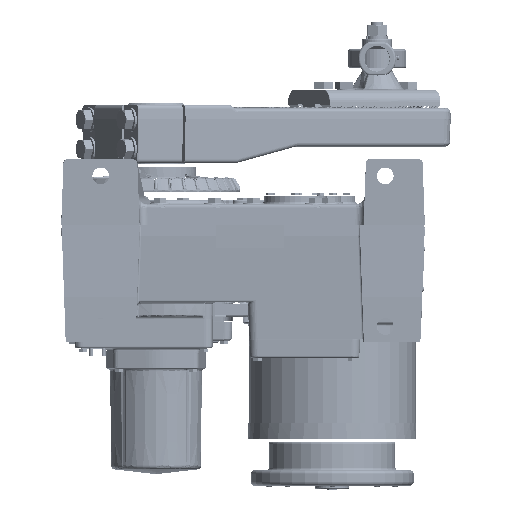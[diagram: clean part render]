
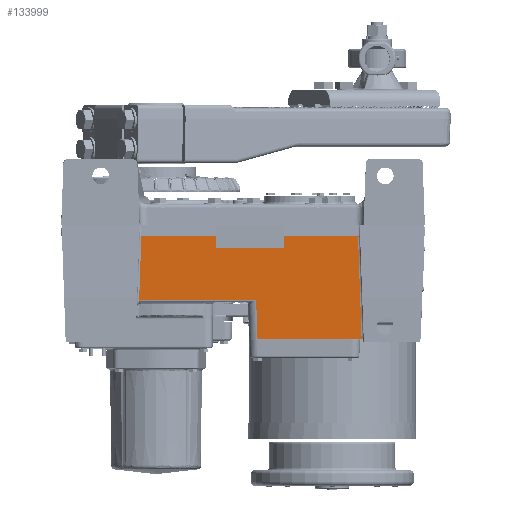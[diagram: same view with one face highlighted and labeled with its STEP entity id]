
A CAD part, front view. The second image highlights one B-rep face of the part: STEP entity #133999.
In plain terms, the highlighted planar face has unit normal (0, -0.999, -0.034).
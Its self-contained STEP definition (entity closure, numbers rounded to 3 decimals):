
#594 = CARTESIAN_POINT ( 'NONE',  ( 6.067, -8.844, -6.826 ) ) ;
#1895 = VECTOR ( 'NONE', #97709, 39.37 ) ;
#2305 = EDGE_CURVE ( 'NONE', #180601, #5463, #27903, .T. ) ;
#4342 = DIRECTION ( 'NONE',  ( 0.035, 0.034, -0.999 ) ) ;
#5463 = VERTEX_POINT ( 'NONE', #89399 ) ;
#10160 = CARTESIAN_POINT ( 'NONE',  ( 12.05, -9.073, -0.001 ) ) ;
#12129 = ORIENTED_EDGE ( 'NONE', *, *, #155512, .F. ) ;
#14060 = CARTESIAN_POINT ( 'NONE',  ( -0.897, -8.921, -4.516 ) ) ;
#16849 = DIRECTION ( 'NONE',  ( 0., -0.034, 0.999 ) ) ;
#25115 = DIRECTION ( 'NONE',  ( 0., 0.034, -0.999 ) ) ;
#27127 = VERTEX_POINT ( 'NONE', #90209 ) ;
#27903 = LINE ( 'NONE', #168218, #176190 ) ;
#28408 = VECTOR ( 'NONE', #25115, 39.37 ) ;
#31625 = LINE ( 'NONE', #10160, #57077 ) ;
#34026 = LINE ( 'NONE', #122718, #142883 ) ;
#35630 = EDGE_CURVE ( 'NONE', #188789, #190414, #34026, .T. ) ;
#40018 = DIRECTION ( 'NONE',  ( 1., 0., 0. ) ) ;
#40982 = VECTOR ( 'NONE', #150929, 39.37 ) ;
#42816 = CARTESIAN_POINT ( 'NONE',  ( -0.973, -8.921, -4.522 ) ) ;
#43009 = VECTOR ( 'NONE', #68603, 39.37 ) ;
#45945 = CARTESIAN_POINT ( 'NONE',  ( -0.875, -9.05, -0.687 ) ) ;
#46149 = VERTEX_POINT ( 'NONE', #166339 ) ;
#47366 = CARTESIAN_POINT ( 'NONE',  ( 7.63, -9.05, -0.687 ) ) ;
#49833 = CARTESIAN_POINT ( 'NONE',  ( 12.199, -9.05, -0.687 ) ) ;
#50522 = VECTOR ( 'NONE', #40018, 39.37 ) ;
#57077 = VECTOR ( 'NONE', #172633, 39.37 ) ;
#57507 = ORIENTED_EDGE ( 'NONE', *, *, #155620, .T. ) ;
#57704 = CARTESIAN_POINT ( 'NONE',  ( -0.897, -8.921, -4.516 ) ) ;
#63088 = LINE ( 'NONE', #67426, #102474 ) ;
#64723 = DIRECTION ( 'NONE',  ( 1., 0., 0. ) ) ;
#67426 = CARTESIAN_POINT ( 'NONE',  ( -7.626, -9.026, -1.401 ) ) ;
#68603 = DIRECTION ( 'NONE',  ( 1., 0., 0. ) ) ;
#69351 = EDGE_CURVE ( 'NONE', #173581, #89358, #107187, .T. ) ;
#74387 = ORIENTED_EDGE ( 'NONE', *, *, #2305, .T. ) ;
#80584 = LINE ( 'NONE', #111982, #1895 ) ;
#82353 = DIRECTION ( 'NONE',  ( 1., 0., 0. ) ) ;
#82764 = VERTEX_POINT ( 'NONE', #14060 ) ;
#86823 = CARTESIAN_POINT ( 'NONE',  ( -1.009, -8.921, -4.534 ) ) ;
#88763 = VERTEX_POINT ( 'NONE', #135658 ) ;
#89358 = VERTEX_POINT ( 'NONE', #97058 ) ;
#89399 = CARTESIAN_POINT ( 'NONE',  ( -1.009, -8.921, -4.534 ) ) ;
#90209 = CARTESIAN_POINT ( 'NONE',  ( 12.288, -8.844, -6.826 ) ) ;
#90563 = CARTESIAN_POINT ( 'NONE',  ( -7.626, -9.05, -0.687 ) ) ;
#93780 = VERTEX_POINT ( 'NONE', #103353 ) ;
#96389 = EDGE_CURVE ( 'NONE', #82764, #188789, #80584, .T. ) ;
#97058 = CARTESIAN_POINT ( 'NONE',  ( 3.569, -9.026, -1.401 ) ) ;
#97709 = DIRECTION ( 'NONE',  ( 1., 0., 0. ) ) ;
#98031 = EDGE_CURVE ( 'NONE', #180601, #173581, #121783, .T. ) ;
#98853 = CARTESIAN_POINT ( 'NONE',  ( 3.569, -9.05, -0.687 ) ) ;
#102474 = VECTOR ( 'NONE', #82353, 39.37 ) ;
#103353 = CARTESIAN_POINT ( 'NONE',  ( 7.63, -9.026, -1.401 ) ) ;
#105523 = DIRECTION ( 'NONE',  ( 0., 0.999, 0.034 ) ) ;
#105548 = CARTESIAN_POINT ( 'NONE',  ( 3.569, -9.05, -0.687 ) ) ;
#106078 = AXIS2_PLACEMENT_3D ( 'NONE', #90563, #105523, #16849 ) ;
#107187 = LINE ( 'NONE', #98853, #28408 ) ;
#108630 = DIRECTION ( 'NONE',  ( -0.035, 0.034, -0.999 ) ) ;
#111087 = EDGE_LOOP ( 'NONE', ( #162510, #139132, #74387, #57507, #128723, #154707, #189144, #151473, #159566, #115683, #12129 ) ) ;
#111982 = CARTESIAN_POINT ( 'NONE',  ( -7.626, -8.921, -4.516 ) ) ;
#114797 = LINE ( 'NONE', #49833, #188979 ) ;
#115683 = ORIENTED_EDGE ( 'NONE', *, *, #135946, .F. ) ;
#121783 = LINE ( 'NONE', #172258, #43009 ) ;
#122718 = CARTESIAN_POINT ( 'NONE',  ( 6.073, -8.838, -6.995 ) ) ;
#128723 = ORIENTED_EDGE ( 'NONE', *, *, #96389, .T. ) ;
#128735 = CARTESIAN_POINT ( 'NONE',  ( -7.626, -8.844, -6.826 ) ) ;
#129250 = LINE ( 'NONE', #128735, #50522 ) ;
#133999 = ADVANCED_FACE ( 'NONE', ( #180527 ), #176787, .F. ) ;
#135658 = CARTESIAN_POINT ( 'NONE',  ( 7.63, -9.05, -0.687 ) ) ;
#135946 = EDGE_CURVE ( 'NONE', #93780, #88763, #159146, .T. ) ;
#139132 = ORIENTED_EDGE ( 'NONE', *, *, #98031, .F. ) ;
#142883 = VECTOR ( 'NONE', #4342, 39.37 ) ;
#145033 = CARTESIAN_POINT ( 'NONE',  ( 5.987, -8.921, -4.516 ) ) ;
#146423 = CARTESIAN_POINT ( 'NONE',  ( -0.935, -8.921, -4.516 ) ) ;
#150929 = DIRECTION ( 'NONE',  ( 0., -0.034, 0.999 ) ) ;
#151473 = ORIENTED_EDGE ( 'NONE', *, *, #174394, .T. ) ;
#154707 = ORIENTED_EDGE ( 'NONE', *, *, #35630, .T. ) ;
#155512 = EDGE_CURVE ( 'NONE', #89358, #93780, #63088, .T. ) ;
#155620 = EDGE_CURVE ( 'NONE', #5463, #82764, #167337, .T. ) ;
#159146 = LINE ( 'NONE', #47366, #40982 ) ;
#159566 = ORIENTED_EDGE ( 'NONE', *, *, #163043, .F. ) ;
#162510 = ORIENTED_EDGE ( 'NONE', *, *, #69351, .F. ) ;
#163043 = EDGE_CURVE ( 'NONE', #88763, #46149, #114797, .T. ) ;
#166339 = CARTESIAN_POINT ( 'NONE',  ( 12.074, -9.05, -0.687 ) ) ;
#167337 =( BOUNDED_CURVE ( )  B_SPLINE_CURVE ( 3, ( #86823, #42816, #146423, #57704 ),
 .UNSPECIFIED., .F., .F. ) 
 B_SPLINE_CURVE_WITH_KNOTS ( ( 4, 4 ),
 ( 2.836, 3.142 ),
 .UNSPECIFIED. ) 
 CURVE ( )  GEOMETRIC_REPRESENTATION_ITEM ( )  RATIONAL_B_SPLINE_CURVE ( ( 1., 0.992, 0.992, 1. ) ) 
 REPRESENTATION_ITEM ( '' )  );
#168218 = CARTESIAN_POINT ( 'NONE',  ( -0.883, -9.042, -0.922 ) ) ;
#172258 = CARTESIAN_POINT ( 'NONE',  ( 12.199, -9.05, -0.687 ) ) ;
#172633 = DIRECTION ( 'NONE',  ( -0.035, -0.034, 0.999 ) ) ;
#173581 = VERTEX_POINT ( 'NONE', #105548 ) ;
#174394 = EDGE_CURVE ( 'NONE', #27127, #46149, #31625, .T. ) ;
#176190 = VECTOR ( 'NONE', #108630, 39.37 ) ;
#176787 = PLANE ( 'NONE',  #106078 ) ;
#180527 = FACE_OUTER_BOUND ( 'NONE', #111087, .T. ) ;
#180601 = VERTEX_POINT ( 'NONE', #45945 ) ;
#184074 = EDGE_CURVE ( 'NONE', #190414, #27127, #129250, .T. ) ;
#188789 = VERTEX_POINT ( 'NONE', #145033 ) ;
#188979 = VECTOR ( 'NONE', #64723, 39.37 ) ;
#189144 = ORIENTED_EDGE ( 'NONE', *, *, #184074, .T. ) ;
#190414 = VERTEX_POINT ( 'NONE', #594 ) ;
